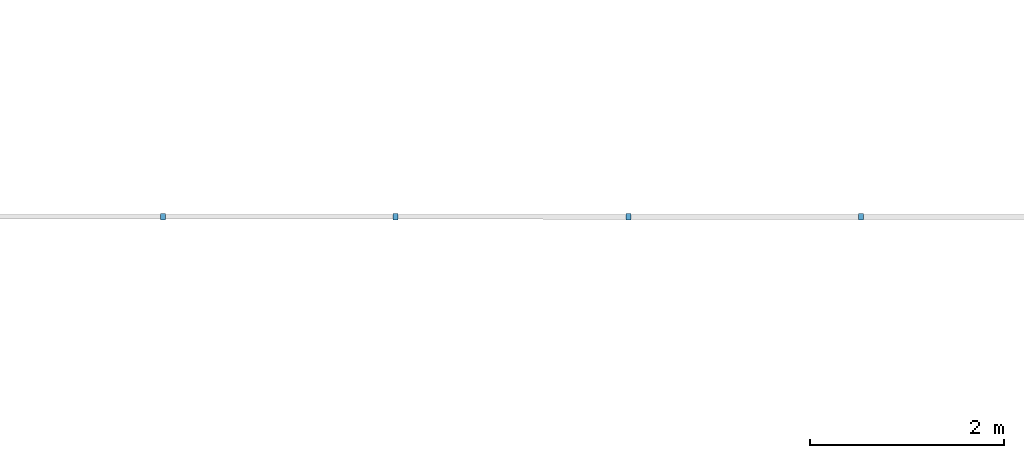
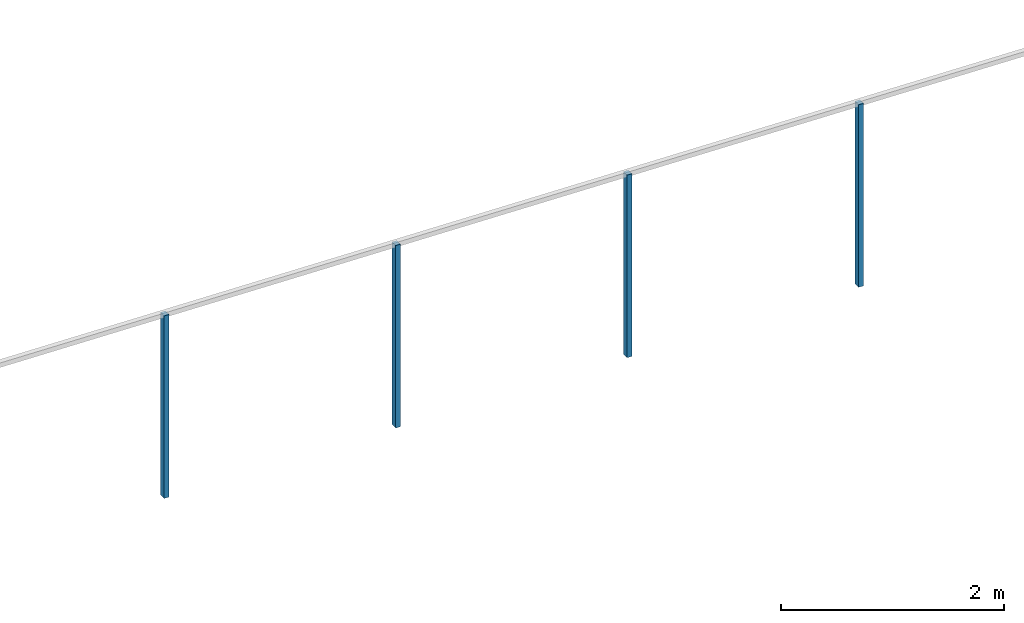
# One storey, part 68 of 91: 4 building element parts, 1 element without a shape of its own.
"""IFC2X3 building model written with IfcOpenShell, lengths in metres."""

from ifc_helpers import new_model, entity, si_unit, converted_unit, derived_unit, money_unit, direction, frame, origin_with_axes, place, context, subcontext, project, spatial, faceted_brep, material, type_object, element, aggregate, save


model = new_model("IFC2X3")

# Units and contexts
model_context = context("Model", 3, precision=1e-05, world=origin_with_axes(), true_north=direction((0.0, 1.0)))
body_context = subcontext(model_context, "Body", "Model", "MODEL_VIEW")
ifc_project = project(units=[si_unit("LENGTHUNIT", "METRE"), si_unit("AREAUNIT", "SQUARE_METRE"), si_unit("VOLUMEUNIT", "CUBIC_METRE"), converted_unit("PLANEANGLEUNIT", "DEGREE", entity("IfcPlaneAngleMeasure", 0.0174532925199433), si_unit("PLANEANGLEUNIT", "RADIAN"), dimensions=[0, 0, 0, 0, 0, 0, 0]), money_unit("EUR"), converted_unit("TIMEUNIT", "Year", entity("IfcTimeMeasure", 31557600.0), si_unit("TIMEUNIT", "SECOND"), dimensions=[0, 0, 1, 0, 0, 0, 0]), si_unit("MASSUNIT", "GRAM", prefix="KILO"), si_unit("THERMODYNAMICTEMPERATUREUNIT", "DEGREE_CELSIUS"), si_unit("LUMINOUSINTENSITYUNIT", "LUMEN"), si_unit("ENERGYUNIT", "JOULE", prefix="MEGA"), derived_unit("THERMALCONDUCTANCEUNIT", [(si_unit("POWERUNIT", "WATT"), 1), (si_unit("LENGTHUNIT", "METRE"), -1), (si_unit("THERMODYNAMICTEMPERATUREUNIT", "KELVIN"), -1)]), derived_unit("SPECIFICHEATCAPACITYUNIT", [(si_unit("ENERGYUNIT", "JOULE"), 1), (si_unit("MASSUNIT", "GRAM", prefix="KILO"), -1), (si_unit("THERMODYNAMICTEMPERATUREUNIT", "KELVIN"), -1)]), derived_unit("MASSDENSITYUNIT", [(si_unit("MASSUNIT", "GRAM", prefix="KILO"), 1), (si_unit("VOLUMEUNIT", "CUBIC_METRE"), -1)])], contexts=[model_context])

# Site, building, storey
site_placement = place(None, origin_with_axes())
site = spatial("IfcSite", under=ifc_project, at=site_placement, Name="Site", CompositionType="ELEMENT")
building_placement = place(site_placement, origin_with_axes())
building = spatial("IfcBuilding", under=site, at=building_placement, Name="Bâtiment", CompositionType="ELEMENT")
storey_placement = place(building_placement, origin_with_axes())
storey = spatial("IfcBuildingStorey", under=building, at=storey_placement, Name="RDC", CompositionType="ELEMENT", Elevation=0.0)

# Proxy, building element parts
building_element_proxy_type = type_object("IfcBuildingElementProxyType", Name="Type de garde-corps", PredefinedType="NOTDEFINED")
proxy_placement = place(storey_placement, frame((79.63337255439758, 3.614023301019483, -2.37161404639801), z_axis=(0.0, 0.0, 1.0), x_axis=(1.0, 0.0, 0.0)))
proxy = element("IfcBuildingElementProxy", 1, at=proxy_placement, inside=storey, type_object=building_element_proxy_type, Name="RAMPE-004")
ifc_material = material(Name="Acier Galva")
building_element_part_1_placement = place(proxy_placement, origin_with_axes())
building_element_part_1 = element("IfcBuildingElementPart", 2, at=building_element_part_1_placement, material=ifc_material, Name="Acier Galva", context=body_context, shape_type="Brep", body=[
    faceted_brep([(-17.87407869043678, 3.416125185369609, 1.333163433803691), (-17.87409091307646, 3.350125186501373, 1.333163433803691), (-17.87409091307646, 3.350125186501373, 3.333163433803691), (-17.87407869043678, 3.416125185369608, 3.333163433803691), (-17.82407869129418, 3.41611592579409, 1.331735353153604), (-17.82409091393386, 3.350115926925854, 1.331735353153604), (-17.82409091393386, 3.350115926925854, 3.331735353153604), (-17.82407869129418, 3.41611592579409, 3.331735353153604)], [[[0, 1, 2, 3]], [[0, 4, 5, 1]], [[1, 5, 6, 2]], [[3, 2, 6, 7]], [[4, 0, 3, 7]], [[5, 4, 7, 6]]]),
])
building_element_part_2_placement = place(proxy_placement, origin_with_axes())
building_element_part_2 = element("IfcBuildingElementPart", 3, at=building_element_part_2_placement, material=ifc_material, Name="Acier Galva", context=body_context, shape_type="Brep", body=[
    faceted_brep([(-20.2727378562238, 3.416569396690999, 1.401673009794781), (-20.27275007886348, 3.350569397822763, 1.401673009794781), (-20.27275007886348, 3.350569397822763, 3.401673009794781), (-20.2727378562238, 3.416569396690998, 3.401673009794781), (-20.2227378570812, 3.41656013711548, 1.400244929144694), (-20.22275007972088, 3.350560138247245, 1.400244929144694), (-20.22275007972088, 3.350560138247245, 3.400244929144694), (-20.2227378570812, 3.41656013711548, 3.400244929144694)], [[[0, 1, 2, 3]], [[0, 4, 5, 1]], [[1, 5, 6, 2]], [[3, 2, 6, 7]], [[4, 0, 3, 7]], [[5, 4, 7, 6]]]),
])
building_element_part_3_placement = place(proxy_placement, origin_with_axes())
building_element_part_3 = element("IfcBuildingElementPart", 4, at=building_element_part_3_placement, material=ifc_material, Name="Acier Galva", context=body_context, shape_type="Brep", body=[
    faceted_brep([(-22.67139702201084, 3.41701360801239, 1.47018258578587), (-22.67140924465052, 3.351013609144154, 1.470182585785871), (-22.67140924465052, 3.351013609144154, 3.470182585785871), (-22.67139702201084, 3.417013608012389, 3.470182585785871), (-22.62139702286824, 3.417004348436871, 1.468754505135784), (-22.62140924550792, 3.351004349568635, 1.468754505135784), (-22.62140924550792, 3.351004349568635, 3.468754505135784), (-22.62139702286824, 3.417004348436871, 3.468754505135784)], [[[0, 1, 2, 3]], [[0, 4, 5, 1]], [[1, 5, 6, 2]], [[3, 2, 6, 7]], [[4, 0, 3, 7]], [[5, 4, 7, 6]]]),
])
building_element_part_4_placement = place(proxy_placement, origin_with_axes())
building_element_part_4 = element("IfcBuildingElementPart", 5, at=building_element_part_4_placement, material=ifc_material, Name="Acier Galva", context=body_context, shape_type="Brep", body=[
    faceted_brep([(-25.07005618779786, 3.41745781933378, 1.53869216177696), (-25.07006841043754, 3.351457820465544, 1.53869216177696), (-25.07006841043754, 3.351457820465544, 3.53869216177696), (-25.07005618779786, 3.417457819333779, 3.53869216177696), (-25.02005618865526, 3.417448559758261, 1.537264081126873), (-25.02006841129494, 3.351448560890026, 1.537264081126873), (-25.02006841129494, 3.351448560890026, 3.537264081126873), (-25.02005618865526, 3.417448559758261, 3.537264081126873)], [[[0, 1, 2, 3]], [[0, 4, 5, 1]], [[1, 5, 6, 2]], [[3, 2, 6, 7]], [[4, 0, 3, 7]], [[5, 4, 7, 6]]]),
])
aggregate(proxy, [building_element_part_1, building_element_part_2, building_element_part_3, building_element_part_4])

save(model, "model.ifc")
